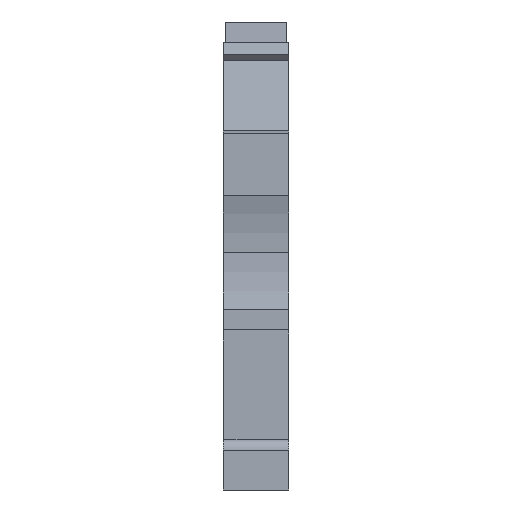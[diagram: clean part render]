
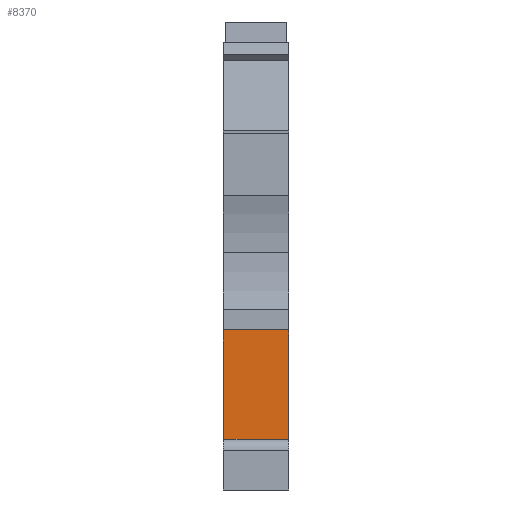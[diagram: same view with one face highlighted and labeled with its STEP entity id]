
A CAD part, front view. The second image highlights one B-rep face of the part: STEP entity #8370.
In plain terms, the highlighted planar face has unit normal (0, -1, 0).
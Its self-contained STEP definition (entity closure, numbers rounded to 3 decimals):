
#104=CARTESIAN_POINT('',(0.,3.6,4.));
#105=VERTEX_POINT('',#104);
#112=CARTESIAN_POINT('',(0.,3.6,12.6));
#113=VERTEX_POINT('',#112);
#114=CARTESIAN_POINT('',(0.,3.6,4.));
#115=DIRECTION('',(-0.,-0.,1.));
#116=VECTOR('',#115,8.6);
#117=LINE('',#114,#116);
#118=EDGE_CURVE('',#105,#113,#117,.T.);
#1257=CARTESIAN_POINT('',(5.15,3.6,1.5));
#1258=VERTEX_POINT('',#1257);
#1265=CARTESIAN_POINT('',(1.,3.6,1.5));
#1266=VERTEX_POINT('',#1265);
#1267=CARTESIAN_POINT('',(1.,3.6,1.5));
#1268=DIRECTION('',(1.,-0.,0.));
#1269=VECTOR('',#1268,4.15);
#1270=LINE('',#1267,#1269);
#1271=EDGE_CURVE('',#1266,#1258,#1270,.T.);
#2517=CARTESIAN_POINT('',(5.15,3.6,12.6));
#2518=VERTEX_POINT('',#2517);
#2525=CARTESIAN_POINT('',(5.15,3.6,1.5));
#2526=DIRECTION('',(-0.,-0.,1.));
#2527=VECTOR('',#2526,11.1);
#2528=LINE('',#2525,#2527);
#2529=EDGE_CURVE('',#1258,#2518,#2528,.T.);
#3979=CARTESIAN_POINT('',(5.15,3.6,12.6));
#3980=DIRECTION('',(-1.,0.,-0.));
#3981=VECTOR('',#3980,5.15);
#3982=LINE('',#3979,#3981);
#3983=EDGE_CURVE('',#2518,#113,#3982,.T.);
#8299=CARTESIAN_POINT('',(1.,3.6,4.));
#8300=VERTEX_POINT('',#8299);
#8301=CARTESIAN_POINT('',(1.,3.6,1.5));
#8302=DIRECTION('',(-0.,0.,1.));
#8303=VECTOR('',#8302,2.5);
#8304=LINE('',#8301,#8303);
#8305=EDGE_CURVE('',#1266,#8300,#8304,.T.);
#8322=CARTESIAN_POINT('',(0.,3.6,4.));
#8323=DIRECTION('',(1.,-0.,0.));
#8324=VECTOR('',#8323,1.);
#8325=LINE('',#8322,#8324);
#8326=EDGE_CURVE('',#105,#8300,#8325,.T.);
#8357=CARTESIAN_POINT('',(5.15,3.6,5.));
#8358=DIRECTION('',(-0.,-1.,-0.));
#8359=DIRECTION('',(-0.,-0.,1.));
#8360=AXIS2_PLACEMENT_3D('',#8357,#8358,#8359);
#8361=PLANE('',#8360);
#8362=ORIENTED_EDGE('',*,*,#3983,.T.);
#8363=ORIENTED_EDGE('',*,*,#118,.F.);
#8364=ORIENTED_EDGE('',*,*,#8326,.T.);
#8365=ORIENTED_EDGE('',*,*,#8305,.F.);
#8366=ORIENTED_EDGE('',*,*,#1271,.T.);
#8367=ORIENTED_EDGE('',*,*,#2529,.T.);
#8368=EDGE_LOOP('',(#8362,#8363,#8364,#8365,#8366,#8367));
#8369=FACE_BOUND('',#8368,.T.);
#8370=ADVANCED_FACE('',(#8369),#8361,.T.);
